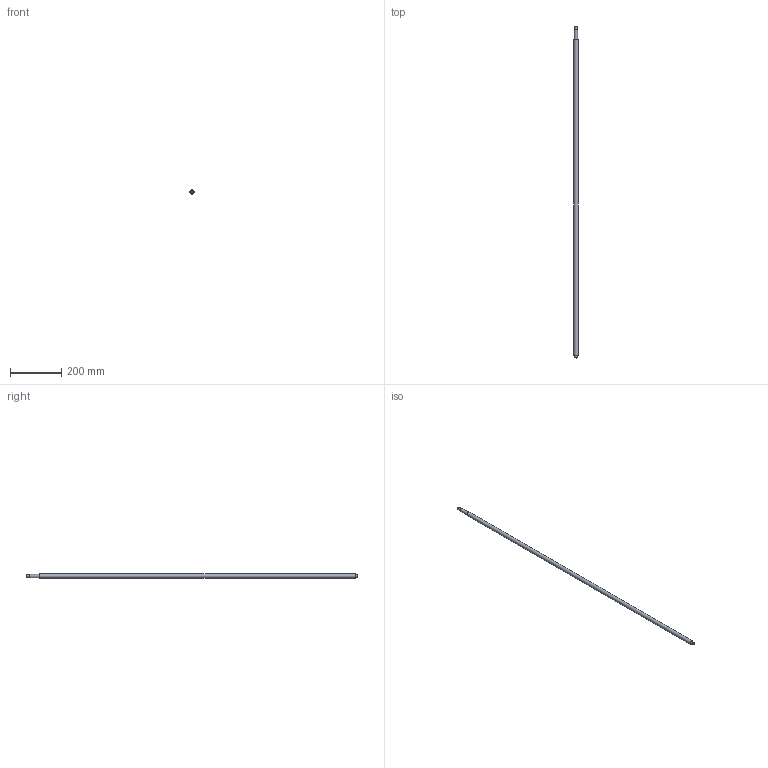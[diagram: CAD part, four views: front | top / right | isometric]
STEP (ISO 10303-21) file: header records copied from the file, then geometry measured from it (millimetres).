
FILE_DESCRIPTION(/* description */ (''),/* implementation_level */ '2;1');
FILE_NAME(/* name */ 'C:\Users\David\Desktop\stepFiles\Profilfuehrung\KUS1605x1300.stp',/* time_stamp */ '2018-06-24T15:08:48+02:00',/* author */ ('David'),/* organization */ (''),/* preprocessor_version */ 'ST-DEVELOPER v17',/* originating_system */ 'Autodesk Inventor 2019',/* authorisation */ '');
FILE_SCHEMA (('AUTOMOTIVE_DESIGN { 1 0 10303 214 3 1 1 }'));
Length unit declared in the file: millimetre
Products named in the file (1): SFU1605xvariabel
Bounding box: 16 x 1300 x 16 mm (x, y, z)
Volume: 254749.6 mm3; surface area: 64758.9 mm2
Topology: 1 solids, 1 shells, 15 faces, 34 edges, 26 vertices
Faces by surface type: plane 7, cylinder 6, cone 2
Full cylindrical faces by diameter (mm): 9.6 x1, 10 x3, 12 x1, 16 x1
Entity records: 493 total; most frequent: DIRECTION 92, CARTESIAN_POINT 76, ORIENTED_EDGE 68, AXIS2_PLACEMENT_3D 42, EDGE_CURVE 34, CIRCLE 26, VERTEX_POINT 26, EDGE_LOOP 20
